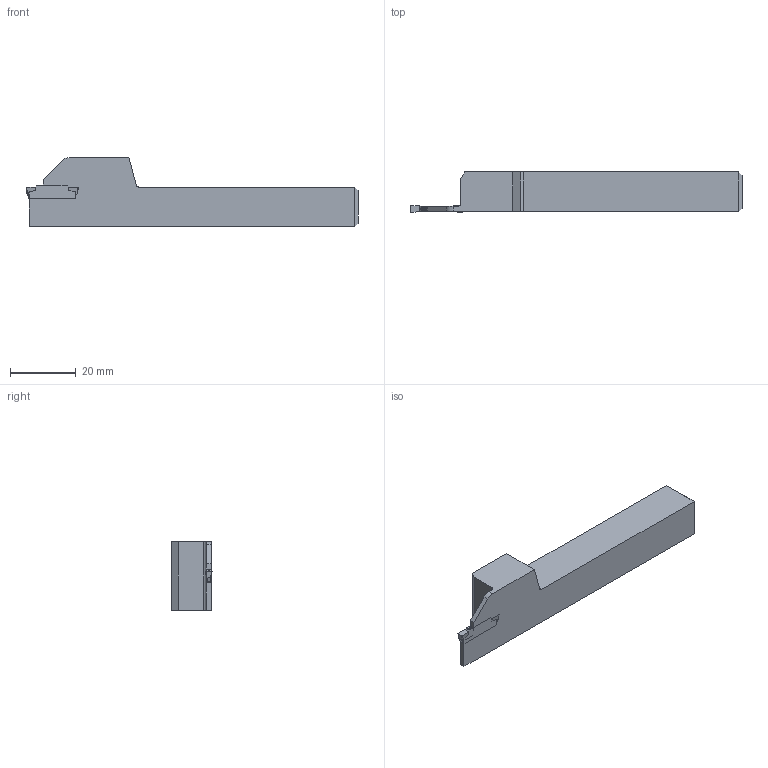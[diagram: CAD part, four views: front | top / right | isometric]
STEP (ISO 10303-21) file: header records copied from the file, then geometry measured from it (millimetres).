
FILE_DESCRIPTION(/* description */ (''),/* implementation_level */ '2;1');
FILE_NAME(/* name */ 'MGEHR1212-2-HAAS-1.stp',/* time_stamp */ '2021-10-15T14:24:59+09:00',/* author */ (''),/* organization */ (''),/* preprocessor_version */ 'ST-DEVELOPER v11',/* originating_system */ 'SIEMENS UGS NX 6.0',/* authorisation */ '');
FILE_SCHEMA (('CONFIG_CONTROL_DESIGN'));
Length unit declared in the file: millimetre
Products named in the file (1): user478Ezrdp
Bounding box: 101.1 x 12.25 x 21 mm (x, y, z)
Volume: 14566.8 mm3; surface area: 5518 mm2
Topology: 2 solids, 4 shells, 79 faces, 205 edges, 134 vertices
Faces by surface type: plane 54, cylinder 23, bspline 2
Entity records: 2527 total; most frequent: CARTESIAN_POINT 487, ORIENTED_EDGE 410, DIRECTION 399, EDGE_CURVE 205, LINE 151, VECTOR 151, VERTEX_POINT 134, AXIS2_PLACEMENT_3D 124
